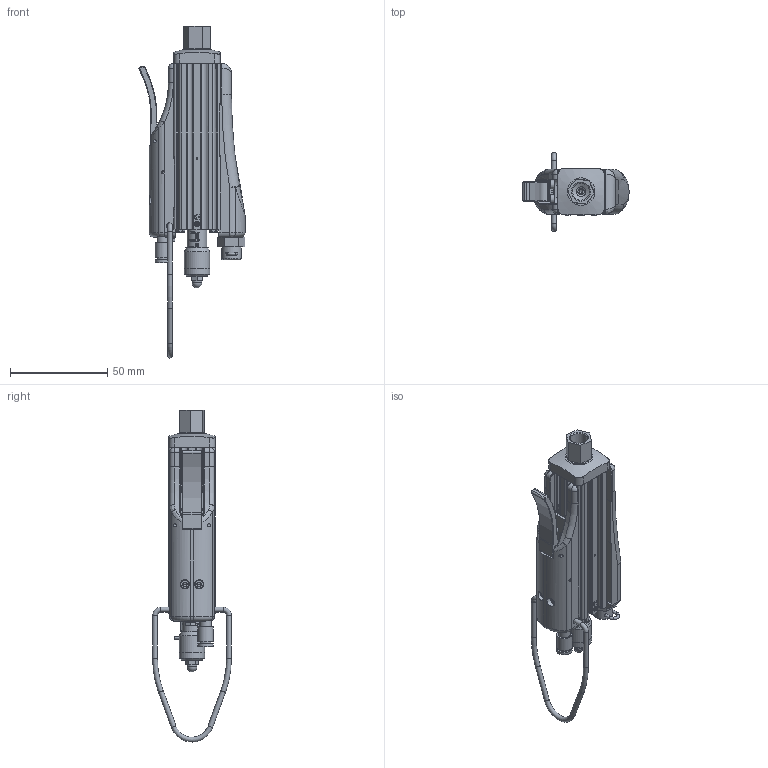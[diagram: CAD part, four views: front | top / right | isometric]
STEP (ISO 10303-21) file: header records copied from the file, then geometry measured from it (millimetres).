
FILE_DESCRIPTION (( 'STEP AP214' ), '1' );
FILE_NAME ('DAV-200-MAN-18.STEP', '2024-10-11T10:17:26', ( '' ), ( '' ), 'SwSTEP 2.0', 'SolidWorks 2024', '' );
FILE_SCHEMA (( 'AUTOMOTIVE_DESIGN' ));
Length unit declared in the file: millimetre
Products named in the file (1): DAV-200-MAN-18
Bounding box: 54.48 x 40.5 x 170.59 mm (x, y, z)
Volume: 68801.3 mm3; surface area: 47555.3 mm2
Topology: 6 solids, 7 shells, 2472 faces, 6584 edges, 4276 vertices
Faces by surface type: plane 1251, bspline 497, cylinder 426, cone 186, torus 101, sphere 11
Full cylindrical faces by diameter (mm): 0.8 x1, 1.2 x21, 1.4 x11, 1.5 x2, 1.55 x1, 1.96 x4, 2 x9, 2.05 x21, 2.1 x1, 2.25 x4, 2.4 x1, 2.5 x22, 2.7 x9, 3 x14, 3.2 x1, 3.4 x6, 3.5 x2, 3.9 x2, 4 x9, 4.5 x9, 4.7 x4, 5 x5, 5.1 x2, 5.5 x5, 5.8 x1, 6 x3, 6.03 x1, 6.2 x1, 7 x2, 7.85 x1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
Entity records: 104203 total; most frequent: CARTESIAN_POINT 49008, ORIENTED_EDGE 11906, DIRECTION 9518, EDGE_CURVE 5953, VERTEX_POINT 4058, VECTOR 3518, LINE 3518, EDGE_LOOP 3141
